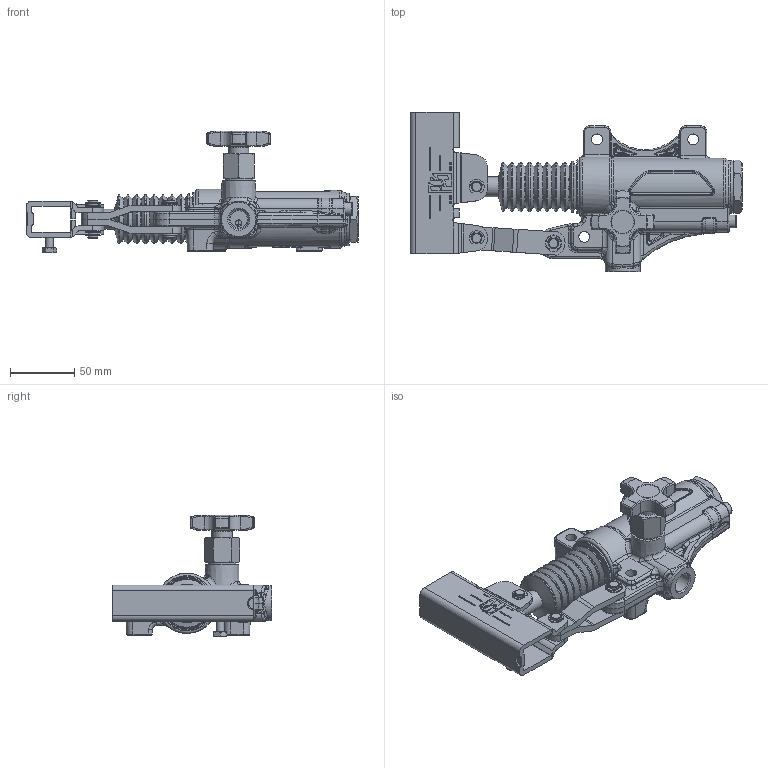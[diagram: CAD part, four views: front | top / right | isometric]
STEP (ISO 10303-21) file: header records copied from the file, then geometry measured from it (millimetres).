
FILE_DESCRIPTION( ( 'Unknown' ), '1' );
FILE_NAME( 'E:/CONVERSIONE/PAM0142001.stp', 'Unknown', ( 'Unknown' ), ( 'Unknown' ), 'PSStep 16.0.42', 'Unknown', ' ' );
FILE_SCHEMA( ( 'AUTOMOTIVE_DESIGN { 1 0 10303 214 1 1 1 1 }' ) );
Length unit declared in the file: millimetre
Products named in the file (25): MS-8170426030; MS-8170125120; MS-8170390010; MS-8170392020; MS-8170033020; MS-2900008212; MS-8170278010; MS-8170278020; MS-9000426002; MS-8170320010; MS-8170434010; MS-9000426071; MS-9000820101; MS-8170375010_ORZ - PAM 20L; MS-9000850102; MS-8170459020
Bounding box: 258.87 x 124 x 95.05 mm (x, y, z)
Volume: 390951 mm3; surface area: 151299.2 mm2
Topology: 25 solids, 25 shells, 1887 faces, 4480 edges, 2644 vertices
Faces by surface type: cylinder 569, plane 470, bspline 452, cone 173, torus 151, sphere 62, extrusion 10
Full cylindrical faces by diameter (mm): 1.5 x1, 5 x5, 6 x10, 6.5 x1, 8 x17, 8.1 x4, 8.25 x1, 8.5 x4, 9 x1, 10 x4, 12 x1, 13 x2, 14 x1, 14.5 x1, 14.9 x1, 15.25 x2, 15.5 x2, 15.6 x2, 16 x3, 16.662 x1, 16.7 x1, 17 x4, 18 x2, 19 x1, 20.4 x1, 21.2 x1, 22 x1, 25 x1, 25.2 x1, 27 x1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
Entity records: 88576 total; most frequent: CARTESIAN_POINT 34272, ORIENTED_EDGE 8258, DIRECTION 7561, EDGE_CURVE 4129, AXIS2_PLACEMENT_3D 3080, VERTEX_POINT 2612, EDGE_LOOP 2242, FACE_OUTER_BOUND 2039
